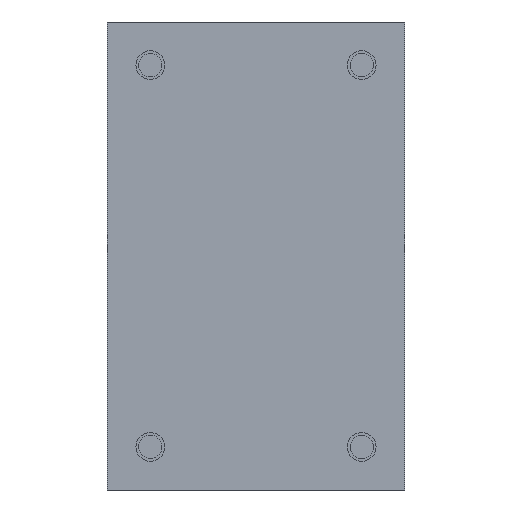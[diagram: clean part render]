
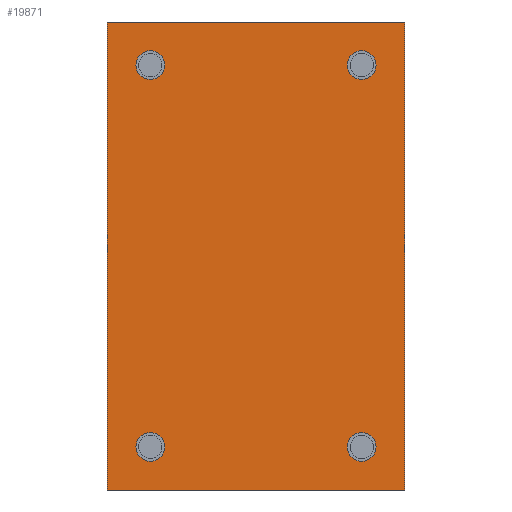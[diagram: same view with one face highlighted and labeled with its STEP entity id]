
A CAD part, front view. The second image highlights one B-rep face of the part: STEP entity #19871.
In plain terms, the highlighted planar face has unit normal (0, -1, 0).
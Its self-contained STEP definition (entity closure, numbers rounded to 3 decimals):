
#211 = FACE_BOUND ( 'NONE', #19926, .T. ) ;
#366 = VERTEX_POINT ( 'NONE', #17430 ) ;
#601 = AXIS2_PLACEMENT_3D ( 'NONE', #16035, #10134, #7726 ) ;
#1021 = EDGE_CURVE ( 'NONE', #12841, #14258, #22160, .T. ) ;
#1070 = EDGE_CURVE ( 'NONE', #25204, #12547, #13881, .T. ) ;
#1225 = CARTESIAN_POINT ( 'NONE',  ( -13.081, 0., -23.622 ) ) ;
#1769 = AXIS2_PLACEMENT_3D ( 'NONE', #19381, #3601, #19122 ) ;
#1789 = ORIENTED_EDGE ( 'NONE', *, *, #12047, .F. ) ;
#1928 = LINE ( 'NONE', #8264, #5178 ) ;
#2023 = AXIS2_PLACEMENT_3D ( 'NONE', #22704, #12970, #15190 ) ;
#2279 = VECTOR ( 'NONE', #21621, 1000. ) ;
#2474 = VECTOR ( 'NONE', #8041, 1000. ) ;
#2619 = ORIENTED_EDGE ( 'NONE', *, *, #1070, .T. ) ;
#2808 = EDGE_CURVE ( 'NONE', #6084, #12547, #8180, .T. ) ;
#2889 = DIRECTION ( 'NONE',  ( 0., -1., 0. ) ) ;
#3507 = ORIENTED_EDGE ( 'NONE', *, *, #22973, .F. ) ;
#3601 = DIRECTION ( 'NONE',  ( 0., -1., 0. ) ) ;
#3988 = CARTESIAN_POINT ( 'NONE',  ( -18.415, 0., -28.956 ) ) ;
#4044 = DIRECTION ( 'NONE',  ( 0., 1., 0. ) ) ;
#4675 = VERTEX_POINT ( 'NONE', #16936 ) ;
#4844 = DIRECTION ( 'NONE',  ( 0., -1., 0. ) ) ;
#4999 = ORIENTED_EDGE ( 'NONE', *, *, #5080, .F. ) ;
#5080 = EDGE_CURVE ( 'NONE', #4675, #23822, #6926, .T. ) ;
#5178 = VECTOR ( 'NONE', #14211, 1000. ) ;
#5489 = EDGE_CURVE ( 'NONE', #23822, #4675, #10599, .T. ) ;
#5588 = ORIENTED_EDGE ( 'NONE', *, *, #16998, .F. ) ;
#6008 = FACE_OUTER_BOUND ( 'NONE', #9599, .T. ) ;
#6084 = VERTEX_POINT ( 'NONE', #8520 ) ;
#6926 = CIRCLE ( 'NONE', #601, 1.778 ) ;
#6935 = DIRECTION ( 'NONE',  ( 0., 0., -1. ) ) ;
#7391 = VECTOR ( 'NONE', #7527, 1000. ) ;
#7527 = DIRECTION ( 'NONE',  ( 1., 0., 0. ) ) ;
#7544 = CARTESIAN_POINT ( 'NONE',  ( 13.081, 0., -25.4 ) ) ;
#7726 = DIRECTION ( 'NONE',  ( 0., 0., -1. ) ) ;
#7990 = FACE_BOUND ( 'NONE', #22872, .T. ) ;
#8041 = DIRECTION ( 'NONE',  ( 0., 0., -1. ) ) ;
#8180 = LINE ( 'NONE', #24408, #2474 ) ;
#8264 = CARTESIAN_POINT ( 'NONE',  ( -18.415, 0., 28.956 ) ) ;
#8431 = DIRECTION ( 'NONE',  ( 0., 0., -1. ) ) ;
#8520 = CARTESIAN_POINT ( 'NONE',  ( 18.415, 0., 28.956 ) ) ;
#9024 = LINE ( 'NONE', #17190, #2279 ) ;
#9233 = ORIENTED_EDGE ( 'NONE', *, *, #11902, .F. ) ;
#9592 = AXIS2_PLACEMENT_3D ( 'NONE', #13838, #17883, #19829 ) ;
#9599 = EDGE_LOOP ( 'NONE', ( #13421, #25280, #21515, #2619 ) ) ;
#9715 = PLANE ( 'NONE',  #21756 ) ;
#9976 = DIRECTION ( 'NONE',  ( 1., 0., 0. ) ) ;
#10134 = DIRECTION ( 'NONE',  ( 0., -1., 0. ) ) ;
#10599 = CIRCLE ( 'NONE', #14791, 1.778 ) ;
#10663 = CIRCLE ( 'NONE', #1769, 1.778 ) ;
#10714 = ORIENTED_EDGE ( 'NONE', *, *, #5489, .F. ) ;
#11139 = DIRECTION ( 'NONE',  ( 0., -1., 0. ) ) ;
#11902 = EDGE_CURVE ( 'NONE', #366, #23383, #10663, .T. ) ;
#12047 = EDGE_CURVE ( 'NONE', #14258, #12841, #24546, .T. ) ;
#12049 = CARTESIAN_POINT ( 'NONE',  ( -13.081, 0., -25.4 ) ) ;
#12294 = EDGE_CURVE ( 'NONE', #16814, #6084, #1928, .T. ) ;
#12547 = VERTEX_POINT ( 'NONE', #13782 ) ;
#12841 = VERTEX_POINT ( 'NONE', #14342 ) ;
#12853 = DIRECTION ( 'NONE',  ( 0., 0., -1. ) ) ;
#12970 = DIRECTION ( 'NONE',  ( 0., -1., 0. ) ) ;
#12975 = CARTESIAN_POINT ( 'NONE',  ( -13.081, 0., 25.4 ) ) ;
#13173 = EDGE_LOOP ( 'NONE', ( #5588, #9233 ) ) ;
#13421 = ORIENTED_EDGE ( 'NONE', *, *, #2808, .F. ) ;
#13558 = ORIENTED_EDGE ( 'NONE', *, *, #1021, .F. ) ;
#13782 = CARTESIAN_POINT ( 'NONE',  ( 18.415, 0., -28.956 ) ) ;
#13838 = CARTESIAN_POINT ( 'NONE',  ( 13.081, 0., -23.622 ) ) ;
#13881 = LINE ( 'NONE', #3988, #7391 ) ;
#14211 = DIRECTION ( 'NONE',  ( 1., 0., 0. ) ) ;
#14258 = VERTEX_POINT ( 'NONE', #12049 ) ;
#14342 = CARTESIAN_POINT ( 'NONE',  ( -13.081, 0., -21.844 ) ) ;
#14386 = ORIENTED_EDGE ( 'NONE', *, *, #19515, .F. ) ;
#14529 = VERTEX_POINT ( 'NONE', #25772 ) ;
#14658 = CIRCLE ( 'NONE', #2023, 1.778 ) ;
#14791 = AXIS2_PLACEMENT_3D ( 'NONE', #18850, #20826, #16397 ) ;
#14867 = CARTESIAN_POINT ( 'NONE',  ( -13.081, 0., 23.622 ) ) ;
#15190 = DIRECTION ( 'NONE',  ( 0., 0., -1. ) ) ;
#15875 = CARTESIAN_POINT ( 'NONE',  ( -13.081, 0., -23.622 ) ) ;
#16035 = CARTESIAN_POINT ( 'NONE',  ( 13.081, 0., 23.622 ) ) ;
#16397 = DIRECTION ( 'NONE',  ( 0., 0., -1. ) ) ;
#16524 = AXIS2_PLACEMENT_3D ( 'NONE', #15875, #2889, #8431 ) ;
#16814 = VERTEX_POINT ( 'NONE', #19193 ) ;
#16936 = CARTESIAN_POINT ( 'NONE',  ( 13.081, 0., 21.844 ) ) ;
#16998 = EDGE_CURVE ( 'NONE', #23383, #366, #20917, .T. ) ;
#17190 = CARTESIAN_POINT ( 'NONE',  ( -18.415, 0., 28.956 ) ) ;
#17392 = CARTESIAN_POINT ( 'NONE',  ( 13.081, 0., 25.4 ) ) ;
#17430 = CARTESIAN_POINT ( 'NONE',  ( 13.081, 0., -21.844 ) ) ;
#17861 = FACE_BOUND ( 'NONE', #13173, .T. ) ;
#17883 = DIRECTION ( 'NONE',  ( 0., -1., 0. ) ) ;
#18741 = AXIS2_PLACEMENT_3D ( 'NONE', #14867, #4844, #6935 ) ;
#18850 = CARTESIAN_POINT ( 'NONE',  ( 13.081, 0., 23.622 ) ) ;
#19122 = DIRECTION ( 'NONE',  ( 0., 0., -1. ) ) ;
#19193 = CARTESIAN_POINT ( 'NONE',  ( -18.415, 0., 28.956 ) ) ;
#19381 = CARTESIAN_POINT ( 'NONE',  ( 13.081, 0., -23.622 ) ) ;
#19515 = EDGE_CURVE ( 'NONE', #14529, #23492, #14658, .T. ) ;
#19829 = DIRECTION ( 'NONE',  ( 0., 0., -1. ) ) ;
#19871 = ADVANCED_FACE ( 'NONE', ( #7990, #211, #19933, #17861, #6008 ), #9715, .F. ) ;
#19926 = EDGE_LOOP ( 'NONE', ( #4999, #10714 ) ) ;
#19933 = FACE_BOUND ( 'NONE', #23520, .T. ) ;
#20826 = DIRECTION ( 'NONE',  ( 0., -1., 0. ) ) ;
#20917 = CIRCLE ( 'NONE', #9592, 1.778 ) ;
#21285 = CIRCLE ( 'NONE', #18741, 1.778 ) ;
#21515 = ORIENTED_EDGE ( 'NONE', *, *, #22388, .T. ) ;
#21621 = DIRECTION ( 'NONE',  ( 0., 0., -1. ) ) ;
#21756 = AXIS2_PLACEMENT_3D ( 'NONE', #22076, #4044, #9976 ) ;
#22076 = CARTESIAN_POINT ( 'NONE',  ( -18.415, 0., 28.956 ) ) ;
#22160 = CIRCLE ( 'NONE', #24702, 1.778 ) ;
#22388 = EDGE_CURVE ( 'NONE', #16814, #25204, #9024, .T. ) ;
#22704 = CARTESIAN_POINT ( 'NONE',  ( -13.081, 0., 23.622 ) ) ;
#22872 = EDGE_LOOP ( 'NONE', ( #14386, #3507 ) ) ;
#22973 = EDGE_CURVE ( 'NONE', #23492, #14529, #21285, .T. ) ;
#23383 = VERTEX_POINT ( 'NONE', #7544 ) ;
#23492 = VERTEX_POINT ( 'NONE', #12975 ) ;
#23520 = EDGE_LOOP ( 'NONE', ( #1789, #13558 ) ) ;
#23822 = VERTEX_POINT ( 'NONE', #17392 ) ;
#24408 = CARTESIAN_POINT ( 'NONE',  ( 18.415, 0., 28.956 ) ) ;
#24546 = CIRCLE ( 'NONE', #16524, 1.778 ) ;
#24702 = AXIS2_PLACEMENT_3D ( 'NONE', #1225, #11139, #12853 ) ;
#24720 = CARTESIAN_POINT ( 'NONE',  ( -18.415, 0., -28.956 ) ) ;
#25204 = VERTEX_POINT ( 'NONE', #24720 ) ;
#25280 = ORIENTED_EDGE ( 'NONE', *, *, #12294, .F. ) ;
#25772 = CARTESIAN_POINT ( 'NONE',  ( -13.081, 0., 21.844 ) ) ;
